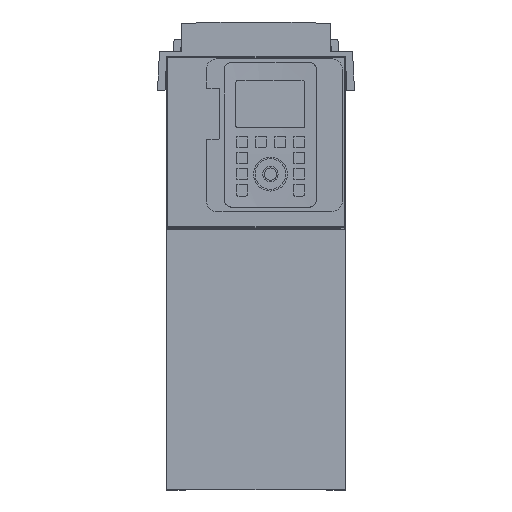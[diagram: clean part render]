
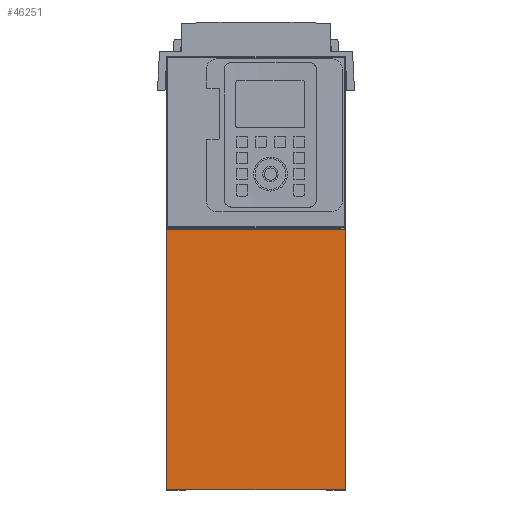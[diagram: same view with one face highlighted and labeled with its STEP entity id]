
A CAD part, top view. The second image highlights one B-rep face of the part: STEP entity #46251.
In plain terms, the highlighted planar face has unit normal (0, 0, 1).
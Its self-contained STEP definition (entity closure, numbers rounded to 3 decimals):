
#42948=DIRECTION('',(0.,-1.,0.));
#42949=VECTOR('',#42948,225.5);
#42950=CARTESIAN_POINT('',(-77.5,6.5,225.));
#42951=LINE('',#42950,#42949);
#43820=DIRECTION('',(1.,0.,0.));
#43821=VECTOR('',#43820,155.);
#43822=CARTESIAN_POINT('',(-77.5,6.5,225.));
#43823=LINE('',#43822,#43821);
#43824=DIRECTION('',(0.,-1.,0.));
#43825=VECTOR('',#43824,225.5);
#43826=CARTESIAN_POINT('',(77.5,6.5,225.));
#43827=LINE('',#43826,#43825);
#43828=DIRECTION('',(-1.,0.,0.));
#43829=VECTOR('',#43828,155.);
#43830=CARTESIAN_POINT('',(77.5,-219.,225.));
#43831=LINE('',#43830,#43829);
#45464=CARTESIAN_POINT('',(-77.5,6.5,225.));
#45465=VERTEX_POINT('',#45464);
#45466=CARTESIAN_POINT('',(-77.5,-219.,225.));
#45467=VERTEX_POINT('',#45466);
#45546=CARTESIAN_POINT('',(77.5,6.5,225.));
#45548=VERTEX_POINT('',#45546);
#45555=CARTESIAN_POINT('',(77.5,-219.,225.));
#45556=VERTEX_POINT('',#45555);
#46239=CARTESIAN_POINT('',(-77.5,6.5,225.));
#46240=DIRECTION('',(0.,0.,1.));
#46241=DIRECTION('',(0.,-1.,0.));
#46242=AXIS2_PLACEMENT_3D('',#46239,#46240,#46241);
#46243=PLANE('',#46242);
#46244=ORIENTED_EDGE('',*,*,#45895,.F.);
#46245=ORIENTED_EDGE('',*,*,#46148,.T.);
#46246=ORIENTED_EDGE('',*,*,#46037,.T.);
#46248=ORIENTED_EDGE('',*,*,#46247,.T.);
#46249=EDGE_LOOP('',(#46244,#46245,#46246,#46248));
#46250=FACE_OUTER_BOUND('',#46249,.F.);
#45895=EDGE_CURVE('',#45465,#45467,#42951,.T.);
#46037=EDGE_CURVE('',#45548,#45556,#43827,.T.);
#46148=EDGE_CURVE('',#45465,#45548,#43823,.T.);
#46247=EDGE_CURVE('',#45556,#45467,#43831,.T.);
#46251=ADVANCED_FACE('',(#46250),#46243,.T.);
